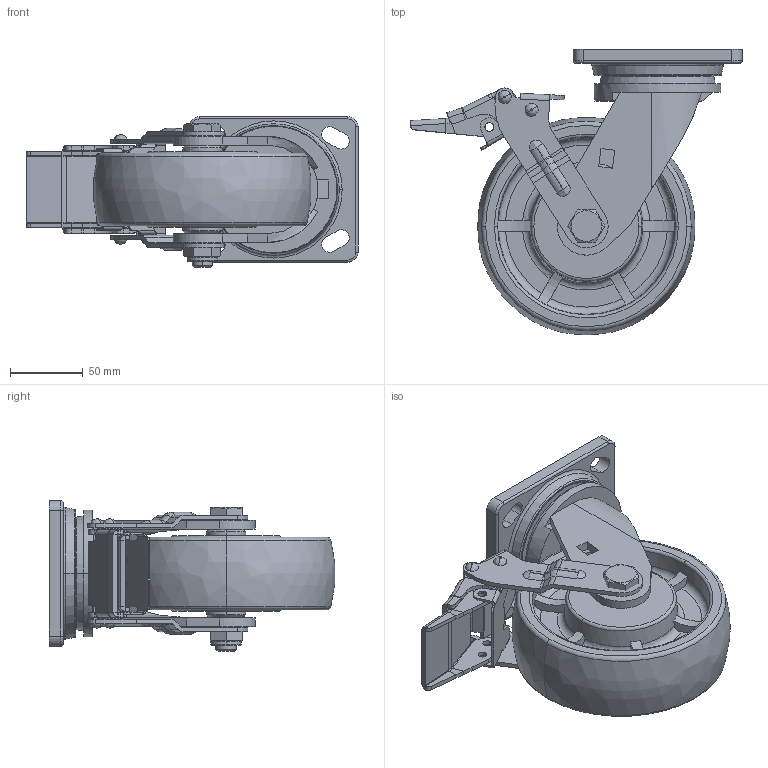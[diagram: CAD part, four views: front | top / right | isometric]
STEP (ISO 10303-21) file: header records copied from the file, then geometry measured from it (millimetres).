
FILE_DESCRIPTION((''),'2;1');
FILE_NAME('78126E_ASM','2021-06-01T',('lenovo'),(''),'PRO/ENGINEER BY PARAMETRIC TECHNOLOGY CORPORATION, 2010280','PRO/ENGINEER BY PARAMETRIC TECHNOLOGY CORPORATION, 2010280','');
FILE_SCHEMA(('CONFIG_CONTROL_DESIGN'));
Length unit declared in the file: millimetre
Products named in the file (12): 7810-201; 766C11; 7810-211; 786-926; 780-33; 780-34; 7316-535; 700-142; 700E-13_; 700-141; 736EE_ASM; 78126E_ASM
Assembly tree (11 placements, depth 3):
  78126E_ASM
    7810-201
    766C11
    7810-211
    786-926
    780-33
    780-34
    736EE_ASM
      7316-535
      700-142
      700E-13_
      700-141
Bounding box: 228.23 x 196.17 x 103.5 mm (x, y, z)
Volume: 963795.5 mm3; surface area: 204679.1 mm2
Topology: 11 solids, 11 shells, 646 faces, 1592 edges, 980 vertices
Faces by surface type: plane 281, cylinder 205, torus 70, bspline 60, cone 30
Entity records: 22024 total; most frequent: CARTESIAN_POINT 6621, ORIENTED_EDGE 3184, DIRECTION 3164, EDGE_CURVE 1592, AXIS2_PLACEMENT_3D 1195, VERTEX_POINT 980, VECTOR 774, LINE 774
